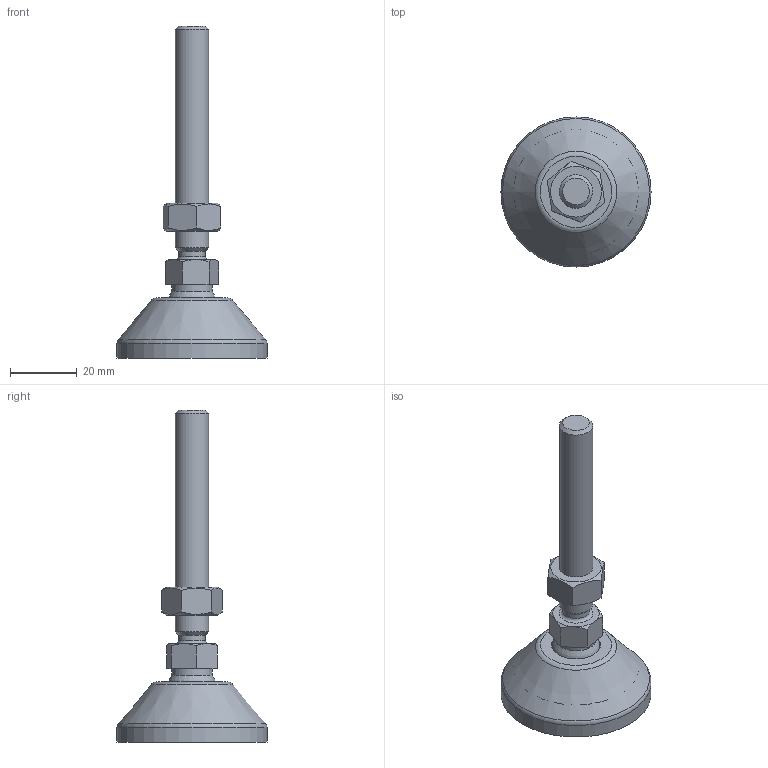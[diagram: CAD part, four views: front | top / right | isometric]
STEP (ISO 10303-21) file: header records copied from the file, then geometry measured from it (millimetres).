
FILE_DESCRIPTION(('STEP AP203'), '1');
FILE_NAME('栖闉罻', '', ('UNSPECIFIED'), ('UNSPECIFIED'), 'C3D Converter', 'C3D Toolkit', '');
FILE_SCHEMA(('CONFIG_CONTROL_DESIGN'));
Length unit declared in the file: millimetre
Products named in the file (4): A00015.1045; A00020.110070
Assembly tree (3 placements, depth 3):
  (unnamed)
    A00015.1045
    A00020.110070
      (unnamed)
Bounding box: 45 x 45 x 99.5 mm (x, y, z)
Volume: 21872.7 mm3; surface area: 10989.1 mm2
Topology: 3 solids, 3 shells, 134 faces, 367 edges, 243 vertices
Faces by surface type: plane 78, cylinder 26, cone 15, torus 13, sphere 2
Full cylindrical faces by diameter (mm): 8 x1, 8.376 x1, 10 x1, 12 x1, 14.3 x1, 15 x2, 15.5 x1, 37.3 x1, 45 x1
Entity records: 7309 total; most frequent: CARTESIAN_POINT 2720, DIRECTION 694, ORIENTED_EDGE 680, EDGE_CURVE 340, AXIS2_PLACEMENT_3D 274, VERTEX_POINT 242, EDGE_LOOP 166, LINE 146
